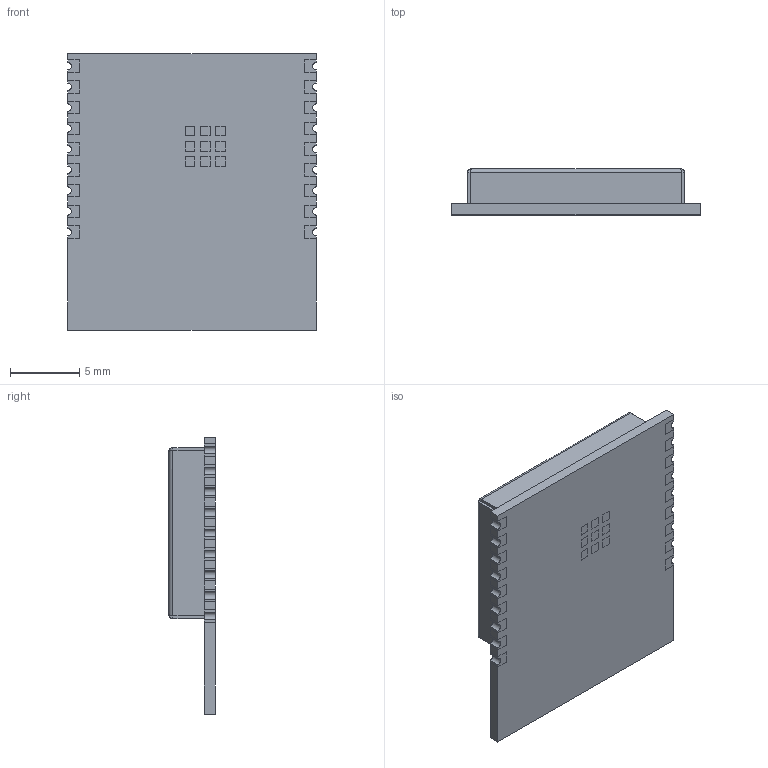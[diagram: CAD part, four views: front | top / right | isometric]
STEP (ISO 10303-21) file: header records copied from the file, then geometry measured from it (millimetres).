
FILE_DESCRIPTION (( 'STEP AP214' ), '1' );
FILE_NAME ('ESP32-C3-WROOM-02-N4.STEP', '2026-04-30T02:26:45', ( '' ), ( '' ), 'SwSTEP 2.0', 'SolidWorks 2025', '' );
FILE_SCHEMA (( 'AUTOMOTIVE_DESIGN' ));
Length unit declared in the file: millimetre
Products named in the file (38): LPattern1[1]_1; Boss-Extrude5[3]_1; ESP32-C3-WROOM-02-N4; LPattern1[10]_1; LPattern1[3]_1; LPattern1[14]_1; Cut-Extrude5[1]_1; Boss-Extrude5[2]_1; Mirror1_1; Boss-Extrude5[6]_1; Boss-Extrude5[7]_1; LPattern1[13]_1; Boss-Extrude4[1]_1; Cut-Extrude7_1; LPattern1[4]_1; LPattern1[5]_1; Boss-Extrude4[2]_1; Boss-Extrude2_1; LPattern1[6]_1; Cut-Extrude5[2]_1; LPattern1[9]_1; Cut-Extrude5[4]_1; Cut-Extrude3_1; LPattern1[16]_1; LPattern1[2]_1; Boss-Extrude5[4]_1; Cut-Extrude5[5]_1; Boss-Extrude5[9]_1; LPattern1[12]_1; LPattern1[7]_1; Boss-Extrude5[8]_1; LPattern1[8]_1; LPattern1[15]_1; Cut-Extrude5[3]_1; Boss-Extrude5[10]_1; Boss-Extrude6_1; Boss-Extrude5[5]_1; LPattern1[11]_1
Assembly tree (37 placements, depth 2):
  ESP32-C3-WROOM-02-N4
    Boss-Extrude5[9]_1
    Boss-Extrude5[3]_1
    LPattern1[4]_1
    Cut-Extrude5[5]_1
    LPattern1[3]_1
    Boss-Extrude5[6]_1
    LPattern1[2]_1
    Boss-Extrude4[1]_1
    Boss-Extrude5[8]_1
    LPattern1[9]_1
    Boss-Extrude2_1
    LPattern1[15]_1
    Boss-Extrude5[4]_1
    Cut-Extrude5[1]_1
    LPattern1[5]_1
    LPattern1[13]_1
    Boss-Extrude5[2]_1
    Boss-Extrude5[10]_1
    Boss-Extrude4[2]_1
    Cut-Extrude3_1
    Cut-Extrude5[3]_1
    Mirror1_1
    LPattern1[16]_1
    Boss-Extrude6_1
    LPattern1[14]_1
    LPattern1[7]_1
    Boss-Extrude5[5]_1
    LPattern1[11]_1
    Cut-Extrude5[2]_1
    Cut-Extrude5[4]_1
    LPattern1[1]_1
    LPattern1[8]_1
    Cut-Extrude7_1
    LPattern1[10]_1
    Boss-Extrude5[7]_1
    LPattern1[12]_1
    LPattern1[6]_1
Bounding box: 18 x 3.35 x 20 mm (x, y, z)
Volume: 349.8 mm3; surface area: 1619.6 mm2
Topology: 37 solids, 37 shells, 524 faces, 1288 edges, 848 vertices
Faces by surface type: plane 476, cylinder 40, bspline 8
Entity records: 17002 total; most frequent: CARTESIAN_POINT 2964, ORIENTED_EDGE 2576, DIRECTION 2448, EDGE_CURVE 1288, VECTOR 1208, LINE 1208, VERTEX_POINT 848, AXIS2_PLACEMENT_3D 620
